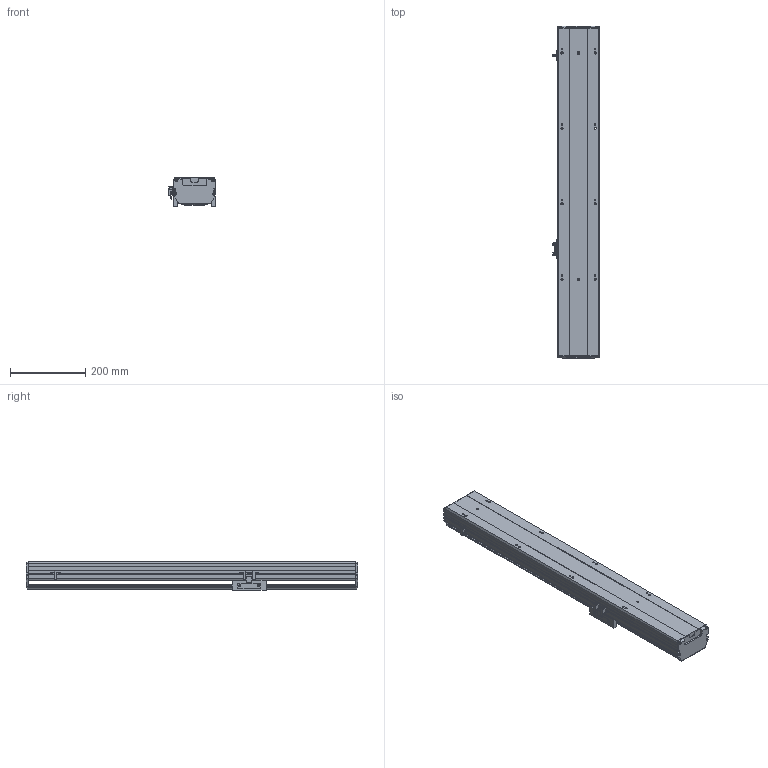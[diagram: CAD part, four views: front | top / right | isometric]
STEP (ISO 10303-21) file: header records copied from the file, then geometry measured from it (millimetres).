
FILE_DESCRIPTION (( 'STEP AP203' ), '1' );
FILE_NAME ('10.STEP', '2020-11-06T08:43:00', ( '' ), ( '' ), 'SwSTEP 2.0', 'SolidWorks 2016', '' );
FILE_SCHEMA (( 'CONFIG_CONTROL_DESIGN' ));
Length unit declared in the file: millimetre
Products named in the file (6): BTH11-M-01; BTH11-M-04; BTH11-M-02; BTH11-M-菁釱; BTH11-M-HZ; 10
Assembly tree (7 placements, depth 2):
  10
    BTH11-M-菁釱
    BTH11-M-01
    BTH11-M-02
    BTH11-M-04  x3
    BTH11-M-HZ
Bounding box: 123.7 x 880 x 76 mm (x, y, z)
Volume: 3159735.1 mm3; surface area: 651445.1 mm2
Topology: 9 solids, 9 shells, 878 faces, 2421 edges, 1572 vertices
Faces by surface type: plane 552, cylinder 274, cone 52
Entity records: 21511 total; most frequent: CARTESIAN_POINT 4215, ORIENTED_EDGE 3502, DIRECTION 3443, EDGE_CURVE 1751, LINE 1171, VECTOR 1171, VERTEX_POINT 1148, AXIS2_PLACEMENT_3D 1136
